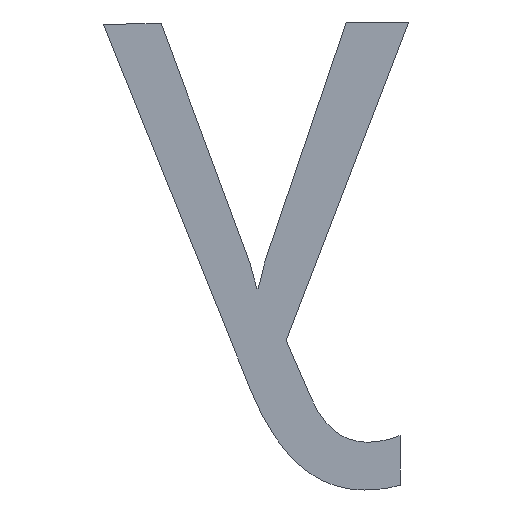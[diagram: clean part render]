
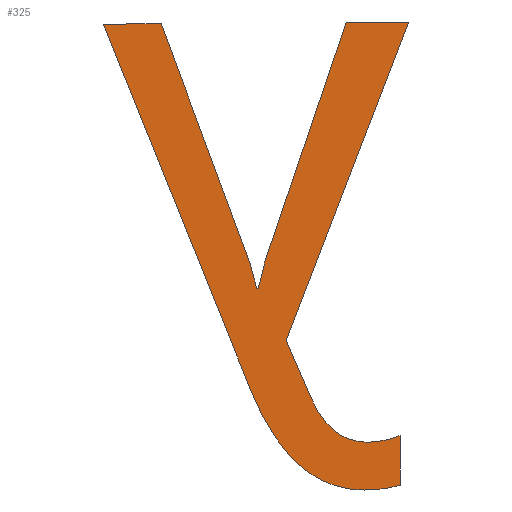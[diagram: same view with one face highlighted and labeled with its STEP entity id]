
A CAD part, front view. The second image highlights one B-rep face of the part: STEP entity #325.
In plain terms, the highlighted planar face has unit normal (0, -1, 0).
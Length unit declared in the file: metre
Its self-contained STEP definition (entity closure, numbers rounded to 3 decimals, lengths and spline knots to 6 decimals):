
#17=B_SPLINE_CURVE_WITH_KNOTS('',3,(#538,#539,#540,#541),.UNSPECIFIED.,
 .F.,.F.,(4,4),(1.,2.),.UNSPECIFIED.);
#18=B_SPLINE_CURVE_WITH_KNOTS('',3,(#543,#544,#545,#546),.UNSPECIFIED.,
 .F.,.F.,(4,4),(2.,3.),.UNSPECIFIED.);
#19=B_SPLINE_CURVE_WITH_KNOTS('',3,(#550,#551,#552,#553),.UNSPECIFIED.,
 .F.,.F.,(4,4),(4.,5.),.UNSPECIFIED.);
#20=B_SPLINE_CURVE_WITH_KNOTS('',3,(#555,#556,#557,#558),.UNSPECIFIED.,
 .F.,.F.,(4,4),(5.,6.),.UNSPECIFIED.);
#21=B_SPLINE_CURVE_WITH_KNOTS('',3,(#572,#573,#574,#575),.UNSPECIFIED.,
 .F.,.F.,(4,4),(12.,13.),.UNSPECIFIED.);
#27=ORIENTED_EDGE('',*,*,#117,.F.);
#28=ORIENTED_EDGE('',*,*,#118,.F.);
#29=ORIENTED_EDGE('',*,*,#119,.F.);
#30=ORIENTED_EDGE('',*,*,#120,.F.);
#31=ORIENTED_EDGE('',*,*,#121,.F.);
#32=ORIENTED_EDGE('',*,*,#122,.F.);
#33=ORIENTED_EDGE('',*,*,#123,.F.);
#34=ORIENTED_EDGE('',*,*,#124,.F.);
#35=ORIENTED_EDGE('',*,*,#125,.F.);
#36=ORIENTED_EDGE('',*,*,#126,.F.);
#37=ORIENTED_EDGE('',*,*,#127,.F.);
#38=ORIENTED_EDGE('',*,*,#128,.F.);
#39=ORIENTED_EDGE('',*,*,#129,.F.);
#40=ORIENTED_EDGE('',*,*,#130,.F.);
#41=ORIENTED_EDGE('',*,*,#131,.F.);
#117=EDGE_CURVE('',#162,#163,#192,.T.);
#118=EDGE_CURVE('',#164,#162,#193,.T.);
#119=EDGE_CURVE('',#165,#164,#17,.T.);
#120=EDGE_CURVE('',#166,#165,#18,.T.);
#121=EDGE_CURVE('',#167,#166,#194,.T.);
#122=EDGE_CURVE('',#168,#167,#19,.T.);
#123=EDGE_CURVE('',#169,#168,#20,.T.);
#124=EDGE_CURVE('',#170,#169,#195,.T.);
#125=EDGE_CURVE('',#171,#170,#196,.T.);
#126=EDGE_CURVE('',#172,#171,#197,.T.);
#127=EDGE_CURVE('',#173,#172,#198,.T.);
#128=EDGE_CURVE('',#174,#173,#199,.T.);
#129=EDGE_CURVE('',#175,#174,#200,.T.);
#130=EDGE_CURVE('',#176,#175,#21,.T.);
#131=EDGE_CURVE('',#163,#176,#201,.T.);
#162=VERTEX_POINT('',#534);
#163=VERTEX_POINT('',#535);
#164=VERTEX_POINT('',#537);
#165=VERTEX_POINT('',#542);
#166=VERTEX_POINT('',#547);
#167=VERTEX_POINT('',#549);
#168=VERTEX_POINT('',#554);
#169=VERTEX_POINT('',#559);
#170=VERTEX_POINT('',#561);
#171=VERTEX_POINT('',#563);
#172=VERTEX_POINT('',#565);
#173=VERTEX_POINT('',#567);
#174=VERTEX_POINT('',#569);
#175=VERTEX_POINT('',#571);
#176=VERTEX_POINT('',#576);
#192=LINE('',#533,#227);
#193=LINE('',#536,#228);
#194=LINE('',#548,#229);
#195=LINE('',#560,#230);
#196=LINE('',#562,#231);
#197=LINE('',#564,#232);
#198=LINE('',#566,#233);
#199=LINE('',#568,#234);
#200=LINE('',#570,#235);
#201=LINE('',#577,#236);
#227=VECTOR('',#474,1.);
#228=VECTOR('',#475,1.);
#229=VECTOR('',#476,1.);
#230=VECTOR('',#477,1.);
#231=VECTOR('',#478,1.);
#232=VECTOR('',#479,1.);
#233=VECTOR('',#480,1.);
#234=VECTOR('',#481,1.);
#235=VECTOR('',#482,1.);
#236=VECTOR('',#483,1.);
#262=EDGE_LOOP('',(#27,#28,#29,#30,#31,#32,#33,#34,#35,#36,#37,#38,#39,
#40,#41));
#279=FACE_BOUND('',#262,.T.);
#296=PLANE('',#458);
#325=ADVANCED_FACE('',(#279),#296,.F.);
#458=AXIS2_PLACEMENT_3D('',#532,#472,#473);
#472=DIRECTION('',(0.,1.,0.));
#473=DIRECTION('',(0.,0.,1.));
#474=DIRECTION('',(1.,0.,0.007));
#475=DIRECTION('',(-0.373,0.,0.928));
#476=DIRECTION('',(0.007,0.,-1.));
#477=DIRECTION('',(0.396,0.,-0.918));
#478=DIRECTION('',(-0.359,0.,-0.933));
#479=DIRECTION('',(1.,0.,0.007));
#480=DIRECTION('',(0.322,0.,0.947));
#481=DIRECTION('',(0.246,0.,0.969));
#482=DIRECTION('',(1.,0.,0.007));
#483=DIRECTION('',(0.348,0.,-0.938));
#532=CARTESIAN_POINT('',(-0.079,-0.053656,0.027984));
#533=CARTESIAN_POINT('',(-0.079126,-0.053656,0.028387));
#534=CARTESIAN_POINT('',(-0.079179,-0.053656,0.028387));
#535=CARTESIAN_POINT('',(-0.079126,-0.053656,0.028387));
#536=CARTESIAN_POINT('',(-0.079179,-0.053656,0.028387));
#537=CARTESIAN_POINT('',(-0.079045,-0.053656,0.028053));
#538=CARTESIAN_POINT('',(-0.078941,-0.053656,0.027961));
#539=CARTESIAN_POINT('',(-0.078985,-0.053656,0.027961));
#540=CARTESIAN_POINT('',(-0.07902,-0.053656,0.027992));
#541=CARTESIAN_POINT('',(-0.079045,-0.053656,0.028053));
#542=CARTESIAN_POINT('',(-0.078941,-0.053656,0.027961));
#543=CARTESIAN_POINT('',(-0.078908,-0.053656,0.027966));
#544=CARTESIAN_POINT('',(-0.078917,-0.053656,0.027963));
#545=CARTESIAN_POINT('',(-0.078928,-0.053656,0.027961));
#546=CARTESIAN_POINT('',(-0.078941,-0.053656,0.027961));
#547=CARTESIAN_POINT('',(-0.078908,-0.053656,0.027966));
#548=CARTESIAN_POINT('',(-0.078908,-0.053656,0.027966));
#549=CARTESIAN_POINT('',(-0.078908,-0.053656,0.028011));
#550=CARTESIAN_POINT('',(-0.078937,-0.053656,0.028005));
#551=CARTESIAN_POINT('',(-0.078928,-0.053656,0.028005));
#552=CARTESIAN_POINT('',(-0.078918,-0.053656,0.028007));
#553=CARTESIAN_POINT('',(-0.078908,-0.053656,0.028011));
#554=CARTESIAN_POINT('',(-0.078937,-0.053656,0.028005));
#555=CARTESIAN_POINT('',(-0.078989,-0.053656,0.028045));
#556=CARTESIAN_POINT('',(-0.078978,-0.053656,0.028018));
#557=CARTESIAN_POINT('',(-0.07896,-0.053656,0.028005));
#558=CARTESIAN_POINT('',(-0.078937,-0.053656,0.028005));
#559=CARTESIAN_POINT('',(-0.078989,-0.053656,0.028045));
#560=CARTESIAN_POINT('',(-0.078989,-0.053656,0.028045));
#561=CARTESIAN_POINT('',(-0.079012,-0.053656,0.028098));
#562=CARTESIAN_POINT('',(-0.079012,-0.053656,0.028098));
#563=CARTESIAN_POINT('',(-0.0789,-0.053656,0.028389));
#564=CARTESIAN_POINT('',(-0.0789,-0.053656,0.028389));
#565=CARTESIAN_POINT('',(-0.078957,-0.053656,0.028388));
#566=CARTESIAN_POINT('',(-0.078957,-0.053656,0.028388));
#567=CARTESIAN_POINT('',(-0.079032,-0.053656,0.02817));
#568=CARTESIAN_POINT('',(-0.079032,-0.053656,0.02817));
#569=CARTESIAN_POINT('',(-0.079038,-0.053656,0.028146));
#570=CARTESIAN_POINT('',(-0.079038,-0.053656,0.028146));
#571=CARTESIAN_POINT('',(-0.079039,-0.053656,0.028146));
#572=CARTESIAN_POINT('',(-0.079045,-0.053656,0.028169));
#573=CARTESIAN_POINT('',(-0.079042,-0.053656,0.028159));
#574=CARTESIAN_POINT('',(-0.07904,-0.053656,0.028151));
#575=CARTESIAN_POINT('',(-0.079039,-0.053656,0.028146));
#576=CARTESIAN_POINT('',(-0.079045,-0.053656,0.028169));
#577=CARTESIAN_POINT('',(-0.079045,-0.053656,0.028169));
